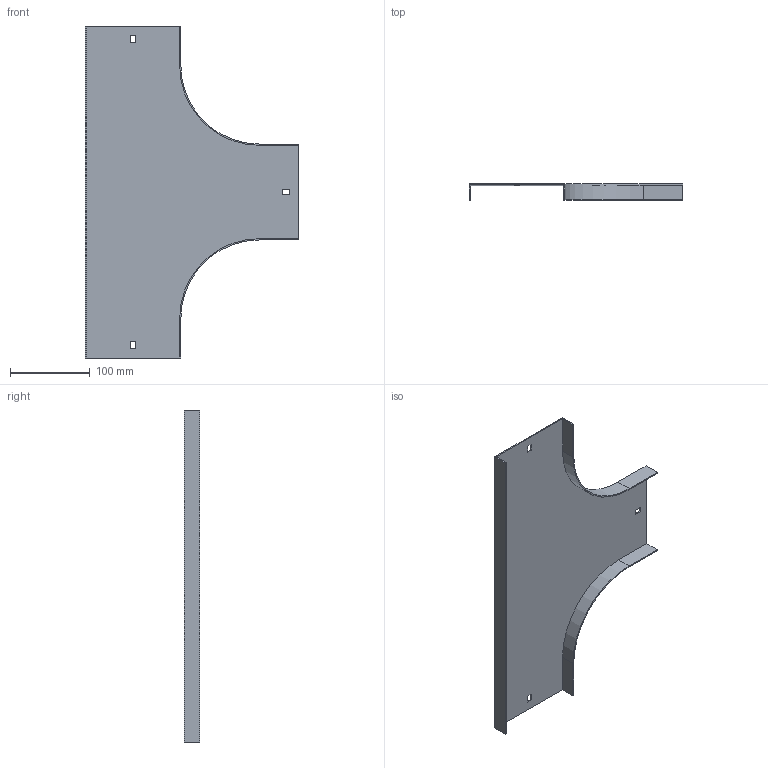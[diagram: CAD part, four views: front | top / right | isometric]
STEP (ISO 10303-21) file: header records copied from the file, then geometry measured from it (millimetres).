
FILE_DESCRIPTION (( 'STEP AP214' ), '1' );
FILE_NAME ('15N1R117.step', '2025-02-21T09:51:57', ( '' ), ( '' ), 'SwSTEP 2.0', 'SolidWorks 2023', '' );
FILE_SCHEMA (( 'AUTOMOTIVE_DESIGN' ));
Length unit declared in the file: millimetre
Products named in the file (1): 15N1R117
Bounding box: 269 x 20 x 417.5 mm (x, y, z)
Volume: 134075.8 mm3; surface area: 181006.4 mm2
Topology: 1 solids, 1 shells, 34 faces, 96 edges, 64 vertices
Faces by surface type: plane 30, cylinder 4
Entity records: 1123 total; most frequent: CARTESIAN_POINT 195, ORIENTED_EDGE 192, DIRECTION 174, EDGE_CURVE 96, VECTOR 88, LINE 88, VERTEX_POINT 64, AXIS2_PLACEMENT_3D 43
